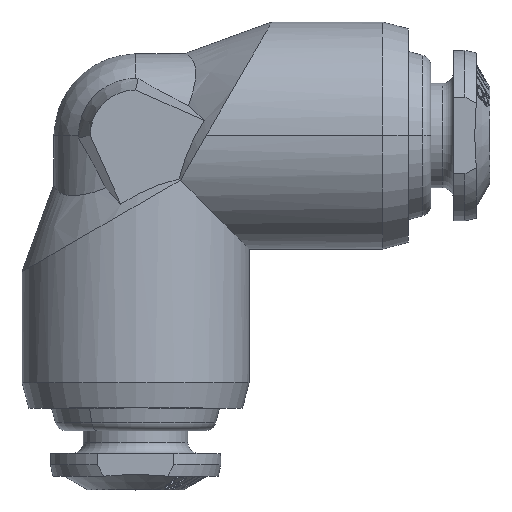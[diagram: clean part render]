
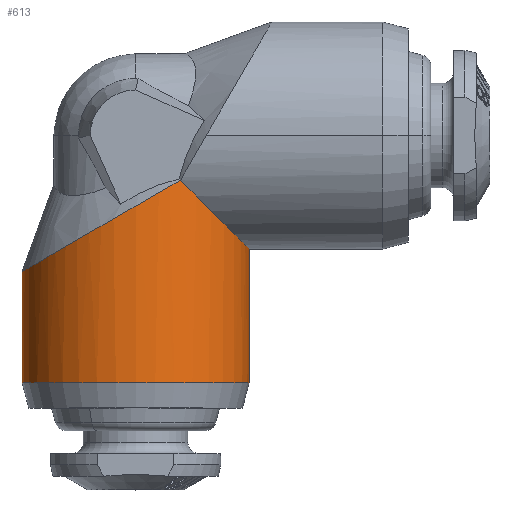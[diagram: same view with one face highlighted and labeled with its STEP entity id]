
A CAD part, top view. The second image highlights one B-rep face of the part: STEP entity #613.
In plain terms, the highlighted cylindrical face has radius 5 mm (diameter 10 mm), a partial arc.
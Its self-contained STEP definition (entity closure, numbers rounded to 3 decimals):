
#613 = ADVANCED_FACE ( 'NONE', ( #3886 ), #3896, .T. ) ;
#793 = EDGE_CURVE ( 'NONE', #9439, #9440, #4109, .T. ) ;
#809 = EDGE_CURVE ( 'NONE', #9440, #9452, #4119, .T. ) ;
#810 = EDGE_CURVE ( 'NONE', #965, #9452, #3703, .T. ) ;
#811 = EDGE_CURVE ( 'NONE', #9454, #965, #3704, .T. ) ;
#812 = EDGE_CURVE ( 'NONE', #9453, #9454, #3705, .T. ) ;
#813 = EDGE_CURVE ( 'NONE', #9449, #9453, #1485, .T. ) ;
#814 = EDGE_CURVE ( 'NONE', #9451, #9449, #1486, .T. ) ;
#815 = EDGE_CURVE ( 'NONE', #9455, #9451, #1487, .T. ) ;
#816 = EDGE_CURVE ( 'NONE', #9456, #9455, #1488, .T. ) ;
#817 = EDGE_CURVE ( 'NONE', #961, #9456, #1489, .T. ) ;
#818 = EDGE_CURVE ( 'NONE', #9439, #961, #4126, .T. ) ;
#961 = VERTEX_POINT ( 'NONE', #12282 ) ;
#965 = VERTEX_POINT ( 'NONE', #12286 ) ;
#1485 = B_SPLINE_CURVE_WITH_KNOTS ( 'NONE', 3,
 ( #12058, #12057, #12075, #12076, #12077, #12078 ),
 .UNSPECIFIED., .F., .F.,
 ( 4, 2, 4 ),
 ( 0., 0.542, 1. ),
 .UNSPECIFIED. ) ;
#1486 = B_SPLINE_CURVE_WITH_KNOTS ( 'NONE', 3,
 ( #12068, #12074, #12081, #12082 ),
 .UNSPECIFIED., .F., .F.,
 ( 4, 4 ),
 ( 0., 1. ),
 .UNSPECIFIED. ) ;
#1487 = B_SPLINE_CURVE_WITH_KNOTS ( 'NONE', 3,
 ( #12073, #12080, #12085, #12086, #12087, #12088 ),
 .UNSPECIFIED., .F., .F.,
 ( 4, 2, 4 ),
 ( 0., 0.474, 1. ),
 .UNSPECIFIED. ) ;
#1488 = B_SPLINE_CURVE_WITH_KNOTS ( 'NONE', 3,
 ( #12079, #12084, #12090, #12091 ),
 .UNSPECIFIED., .F., .F.,
 ( 4, 4 ),
 ( 0.018, 0.018 ),
 .UNSPECIFIED. ) ;
#1489 = B_SPLINE_CURVE_WITH_KNOTS ( 'NONE', 3,
 ( #12083, #12089, #12093, #12094 ),
 .UNSPECIFIED., .F., .F.,
 ( 4, 4 ),
 ( 0., 1. ),
 .UNSPECIFIED. ) ;
#1711 = AXIS2_PLACEMENT_3D ( 'NONE', #13858, #13857, #13854 ) ;
#2048 = EDGE_LOOP ( 'NONE', ( #9888, #9889, #9890, #9891, #9892, #9893, #9894, #9895, #9896, #9897, #9898 ) ) ;
#3703 =( BOUNDED_CURVE ( )  B_SPLINE_CURVE ( 3, ( #12049, #12042, #12055, #12056 ),
 .UNSPECIFIED., .F., .T. ) 
 B_SPLINE_CURVE_WITH_KNOTS ( ( 4, 4 ),
 ( 1.977, 3.142 ),
 .UNSPECIFIED. ) 
 CURVE ( )  GEOMETRIC_REPRESENTATION_ITEM ( )  RATIONAL_B_SPLINE_CURVE ( ( 1., 0.89, 0.89, 1. ) ) 
 REPRESENTATION_ITEM ( '' )  );
#3704 = B_SPLINE_CURVE_WITH_KNOTS ( 'NONE', 3,
 ( #12052, #12054, #12059, #12060, #12061, #12062, #12063, #12064, #12065, #12066 ),
 .UNSPECIFIED., .F., .F.,
 ( 4, 2, 2, 2, 4 ),
 ( 0., 0.326, 0.652, 0.978, 1. ),
 .UNSPECIFIED. ) ;
#3705 = B_SPLINE_CURVE_WITH_KNOTS ( 'NONE', 3,
 ( #12067, #12053, #12069, #12070, #12071, #12072 ),
 .UNSPECIFIED., .F., .F.,
 ( 4, 2, 4 ),
 ( 0., 0.134, 1. ),
 .UNSPECIFIED. ) ;
#3886 = FACE_OUTER_BOUND ( 'NONE', #2048, .T. ) ;
#3896 = CYLINDRICAL_SURFACE ( 'NONE', #1711, 5. ) ;
#4109 = CIRCLE ( 'NONE', #13573, 5. ) ;
#4119 = LINE ( 'NONE', #12043, #4124 ) ;
#4124 = VECTOR ( 'NONE', #12051, 1000. ) ;
#4125 = VECTOR ( 'NONE', #12095, 1000. ) ;
#4126 = LINE ( 'NONE', #12092, #4125 ) ;
#7386 = CARTESIAN_POINT ( 'NONE',  ( -5., -10.88, 0. ) ) ;
#7387 = CARTESIAN_POINT ( 'NONE',  ( 5., -10.88, 0. ) ) ;
#7396 = CARTESIAN_POINT ( 'NONE',  ( -3.536, -5.154, 3.536 ) ) ;
#7398 = CARTESIAN_POINT ( 'NONE',  ( -4.157, -5.513, 2.778 ) ) ;
#7399 = CARTESIAN_POINT ( 'NONE',  ( 5., -5., 0. ) ) ;
#7400 = CARTESIAN_POINT ( 'NONE',  ( -2.053, -4.298, 4.559 ) ) ;
#7401 = CARTESIAN_POINT ( 'NONE',  ( -0.975, -3.676, 4.904 ) ) ;
#7402 = CARTESIAN_POINT ( 'NONE',  ( -4.884, -5.933, 1.07 ) ) ;
#7403 = CARTESIAN_POINT ( 'NONE',  ( -4.904, -5.945, 0.975 ) ) ;
#9439 = VERTEX_POINT ( 'NONE', #7386 ) ;
#9440 = VERTEX_POINT ( 'NONE', #7387 ) ;
#9449 = VERTEX_POINT ( 'NONE', #7396 ) ;
#9451 = VERTEX_POINT ( 'NONE', #7398 ) ;
#9452 = VERTEX_POINT ( 'NONE', #7399 ) ;
#9453 = VERTEX_POINT ( 'NONE', #7400 ) ;
#9454 = VERTEX_POINT ( 'NONE', #7401 ) ;
#9455 = VERTEX_POINT ( 'NONE', #7402 ) ;
#9456 = VERTEX_POINT ( 'NONE', #7403 ) ;
#9888 = ORIENTED_EDGE ( 'NONE', *, *, #793, .T. ) ;
#9889 = ORIENTED_EDGE ( 'NONE', *, *, #809, .T. ) ;
#9890 = ORIENTED_EDGE ( 'NONE', *, *, #810, .F. ) ;
#9891 = ORIENTED_EDGE ( 'NONE', *, *, #811, .F. ) ;
#9892 = ORIENTED_EDGE ( 'NONE', *, *, #812, .F. ) ;
#9893 = ORIENTED_EDGE ( 'NONE', *, *, #813, .F. ) ;
#9894 = ORIENTED_EDGE ( 'NONE', *, *, #814, .F. ) ;
#9895 = ORIENTED_EDGE ( 'NONE', *, *, #815, .F. ) ;
#9896 = ORIENTED_EDGE ( 'NONE', *, *, #816, .F. ) ;
#9897 = ORIENTED_EDGE ( 'NONE', *, *, #817, .F. ) ;
#9898 = ORIENTED_EDGE ( 'NONE', *, *, #818, .F. ) ;
#11993 = CARTESIAN_POINT ( 'NONE',  ( 0., -10.88, 0. ) ) ;
#11994 = DIRECTION ( 'NONE',  ( 0., 1., 0. ) ) ;
#11995 = DIRECTION ( 'NONE',  ( -1., 0., 0. ) ) ;
#12042 = CARTESIAN_POINT ( 'NONE',  ( 3.867, -3.867, 3.781 ) ) ;
#12043 = CARTESIAN_POINT ( 'NONE',  ( 5., 0., 0. ) ) ;
#12049 = CARTESIAN_POINT ( 'NONE',  ( 1.974, -1.974, 4.594 ) ) ;
#12051 = DIRECTION ( 'NONE',  ( 0., 1., 0. ) ) ;
#12052 = CARTESIAN_POINT ( 'NONE',  ( -0.975, -3.676, 4.904 ) ) ;
#12053 = CARTESIAN_POINT ( 'NONE',  ( -2.007, -4.272, 4.58 ) ) ;
#12054 = CARTESIAN_POINT ( 'NONE',  ( -0.654, -3.491, 4.968 ) ) ;
#12055 = CARTESIAN_POINT ( 'NONE',  ( 5., -5., 2.06 ) ) ;
#12056 = CARTESIAN_POINT ( 'NONE',  ( 5., -5., 0. ) ) ;
#12057 = CARTESIAN_POINT ( 'NONE',  ( -3.304, -5.021, 3.767 ) ) ;
#12058 = CARTESIAN_POINT ( 'NONE',  ( -3.536, -5.154, 3.536 ) ) ;
#12059 = CARTESIAN_POINT ( 'NONE',  ( -0.327, -3.302, 5. ) ) ;
#12060 = CARTESIAN_POINT ( 'NONE',  ( 0.327, -2.924, 5. ) ) ;
#12061 = CARTESIAN_POINT ( 'NONE',  ( 0.654, -2.735, 4.968 ) ) ;
#12062 = CARTESIAN_POINT ( 'NONE',  ( 1.296, -2.365, 4.84 ) ) ;
#12063 = CARTESIAN_POINT ( 'NONE',  ( 1.611, -2.183, 4.745 ) ) ;
#12064 = CARTESIAN_POINT ( 'NONE',  ( 1.934, -1.997, 4.611 ) ) ;
#12065 = CARTESIAN_POINT ( 'NONE',  ( 1.954, -1.985, 4.603 ) ) ;
#12066 = CARTESIAN_POINT ( 'NONE',  ( 1.974, -1.974, 4.594 ) ) ;
#12067 = CARTESIAN_POINT ( 'NONE',  ( -2.053, -4.298, 4.559 ) ) ;
#12068 = CARTESIAN_POINT ( 'NONE',  ( -4.157, -5.513, 2.778 ) ) ;
#12069 = CARTESIAN_POINT ( 'NONE',  ( -1.96, -4.245, 4.6 ) ) ;
#12070 = CARTESIAN_POINT ( 'NONE',  ( -1.611, -4.043, 4.745 ) ) ;
#12071 = CARTESIAN_POINT ( 'NONE',  ( -1.296, -3.862, 4.84 ) ) ;
#12072 = CARTESIAN_POINT ( 'NONE',  ( -0.975, -3.676, 4.904 ) ) ;
#12073 = CARTESIAN_POINT ( 'NONE',  ( -4.884, -5.933, 1.07 ) ) ;
#12074 = CARTESIAN_POINT ( 'NONE',  ( -3.976, -5.409, 3.05 ) ) ;
#12075 = CARTESIAN_POINT ( 'NONE',  ( -3.05, -4.874, 3.976 ) ) ;
#12076 = CARTESIAN_POINT ( 'NONE',  ( -2.548, -4.584, 4.311 ) ) ;
#12077 = CARTESIAN_POINT ( 'NONE',  ( -2.305, -4.444, 4.446 ) ) ;
#12078 = CARTESIAN_POINT ( 'NONE',  ( -2.053, -4.298, 4.559 ) ) ;
#12079 = CARTESIAN_POINT ( 'NONE',  ( -4.904, -5.945, 0.975 ) ) ;
#12080 = CARTESIAN_POINT ( 'NONE',  ( -4.821, -5.897, 1.358 ) ) ;
#12081 = CARTESIAN_POINT ( 'NONE',  ( -3.767, -5.288, 3.304 ) ) ;
#12082 = CARTESIAN_POINT ( 'NONE',  ( -3.536, -5.154, 3.536 ) ) ;
#12083 = CARTESIAN_POINT ( 'NONE',  ( -5., -6., 0. ) ) ;
#12084 = CARTESIAN_POINT ( 'NONE',  ( -4.898, -5.941, 1.007 ) ) ;
#12085 = CARTESIAN_POINT ( 'NONE',  ( -4.732, -5.845, 1.641 ) ) ;
#12086 = CARTESIAN_POINT ( 'NONE',  ( -4.494, -5.708, 2.216 ) ) ;
#12087 = CARTESIAN_POINT ( 'NONE',  ( -4.339, -5.618, 2.506 ) ) ;
#12088 = CARTESIAN_POINT ( 'NONE',  ( -4.157, -5.513, 2.778 ) ) ;
#12089 = CARTESIAN_POINT ( 'NONE',  ( -5., -6., 0.327 ) ) ;
#12090 = CARTESIAN_POINT ( 'NONE',  ( -4.891, -5.937, 1.039 ) ) ;
#12091 = CARTESIAN_POINT ( 'NONE',  ( -4.884, -5.933, 1.07 ) ) ;
#12092 = CARTESIAN_POINT ( 'NONE',  ( -5., 0., 0. ) ) ;
#12093 = CARTESIAN_POINT ( 'NONE',  ( -4.968, -5.981, 0.654 ) ) ;
#12094 = CARTESIAN_POINT ( 'NONE',  ( -4.904, -5.945, 0.975 ) ) ;
#12095 = DIRECTION ( 'NONE',  ( 0., 1., 0. ) ) ;
#12282 = CARTESIAN_POINT ( 'NONE',  ( -5., -6., 0. ) ) ;
#12286 = CARTESIAN_POINT ( 'NONE',  ( 1.974, -1.974, 4.594 ) ) ;
#13573 = AXIS2_PLACEMENT_3D ( 'NONE', #11993, #11994, #11995 ) ;
#13854 = DIRECTION ( 'NONE',  ( -1., 0., 0. ) ) ;
#13857 = DIRECTION ( 'NONE',  ( 0., 1., 0. ) ) ;
#13858 = CARTESIAN_POINT ( 'NONE',  ( 0., 0., 0. ) ) ;
